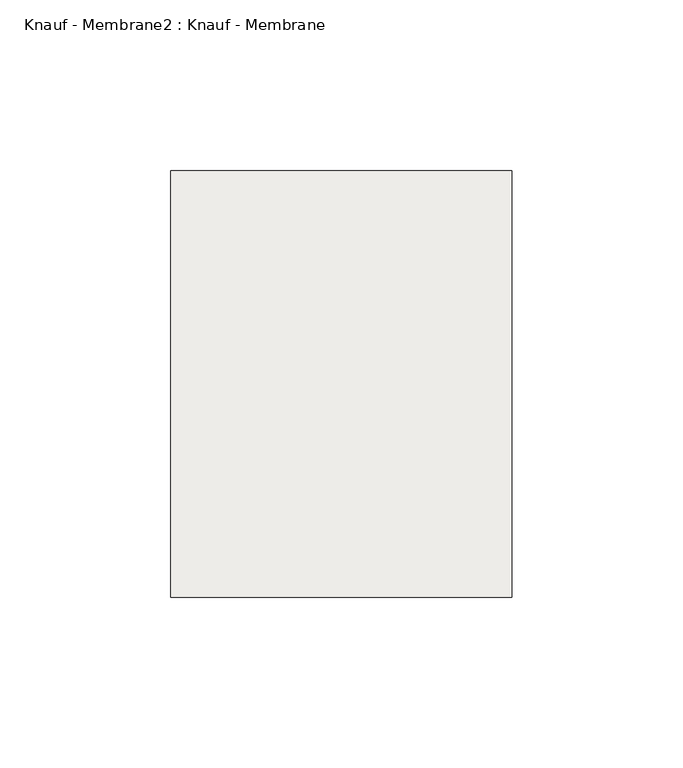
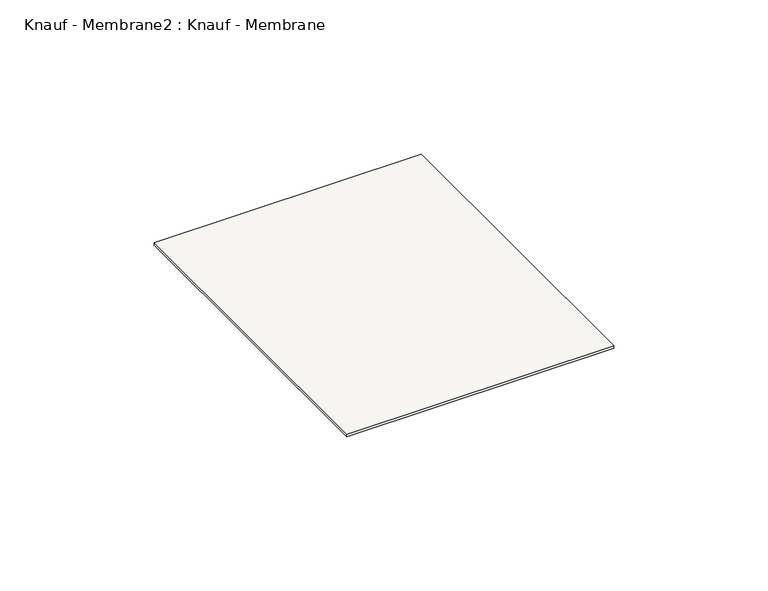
"""IFC4 building model written with IfcOpenShell, lengths in millimetres: slab geometry, Knauf - Membrane2 : Knauf - Membrane."""

from ifc_helpers import new_model, si_unit, frame, origin, place, context, project, spatial, polyline, outline, extrude, source, transform, mapped, element, save


def knauf_membrane2_knauf_membrane_516ce636(model_context):
    return source(origin(), model_context, "Body", "SweptSolid", [
        extrude(outline(polyline([(19616.285179, 15176.9464372), (19716.285179, 15176.9464372), (19716.285179, 15051.9464372), (19616.285179, 15051.9464372), (19616.285179, 15176.9464372)])), frame((0.0, 0.0, 14.0), z_axis=(0.0, 0.0, 1.0), x_axis=(1.0, 0.0, 0.0)), (0.0, 0.0, 1.0), 1.0),
    ])


if __name__ == "__main__":
    model = new_model("IFC4")
    model_context = context("Model", 3, world=origin())
    ifc_project = project(units=[si_unit("LENGTHUNIT", "METRE", prefix="MILLI")], contexts=[model_context])
    site = spatial("IfcSite", under=ifc_project)
    building = spatial("IfcBuilding", under=site)
    placement = place(None, origin())
    knauf_membrane2_knauf_membrane_shape = knauf_membrane2_knauf_membrane_516ce636(model_context)
    element("IfcSlab", 1, ObjectType="Knauf - Membrane2 : Knauf - Membrane", at=placement, inside=building, context=model_context, shape_type="MappedRepresentation", body=[
        mapped(knauf_membrane2_knauf_membrane_shape, transform((0.0, 0.0, 0.0), x_axis=(1.0, 0.0, 0.0), y_axis=(0.0, 1.0, 0.0), z_axis=(0.0, 0.0, 1.0))),
    ])
    save(model, "model.ifc")
